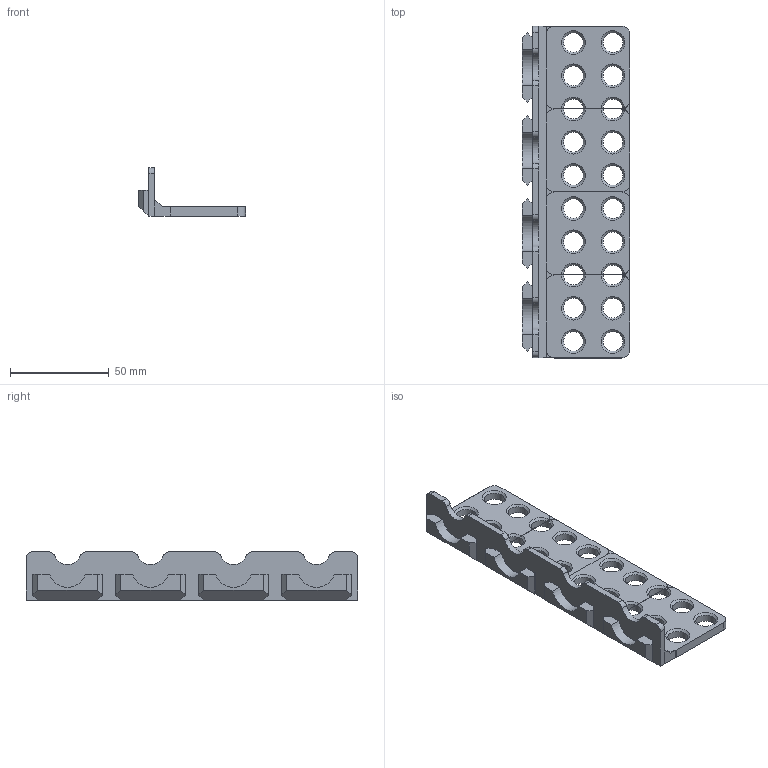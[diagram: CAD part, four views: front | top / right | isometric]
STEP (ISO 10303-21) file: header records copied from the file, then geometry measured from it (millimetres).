
FILE_DESCRIPTION(/* description */ ('','CAx-IF Rec.Pracs.---Representation and Presentation of Product Manufacturing Information (PMI)---4.0---2014-10-13'),/* implementation_level */ '2;1');
FILE_NAME(/* name */ 'Quad Hanger Shelf with 20 Large 10mm Holes.step',/* time_stamp */ '2024-12-07T21:58:55-05:00',/* author */ (''),/* organization */ (''),/* preprocessor_version */ 'ST-DEVELOPER v20',/* originating_system */ 'Autodesk Translation Framework v13.20.0.188',/* authorisation */ '');
FILE_SCHEMA (('AP242_MANAGED_MODEL_BASED_3D_ENGINEERING_MIM_LF { 1 0 10303 442 1 1 4 }'));
Length unit declared in the file: millimetre
Products named in the file (1): Quad Plate Thin Shelf 20 Large 10mm Holes
Bounding box: 54.15 x 168 x 24.39 mm (x, y, z)
Volume: 46324.5 mm3; surface area: 25461.5 mm2
Topology: 1 solids, 1 shells, 168 faces, 459 edges, 277 vertices
Faces by surface type: plane 96, cylinder 42, cone 30
Full cylindrical faces by diameter (mm): 10 x20
Entity records: 5395 total; most frequent: DIRECTION 942, CARTESIAN_POINT 941, ORIENTED_EDGE 918, EDGE_CURVE 459, AXIS2_PLACEMENT_3D 323, LINE 296, VECTOR 296, VERTEX_POINT 277
